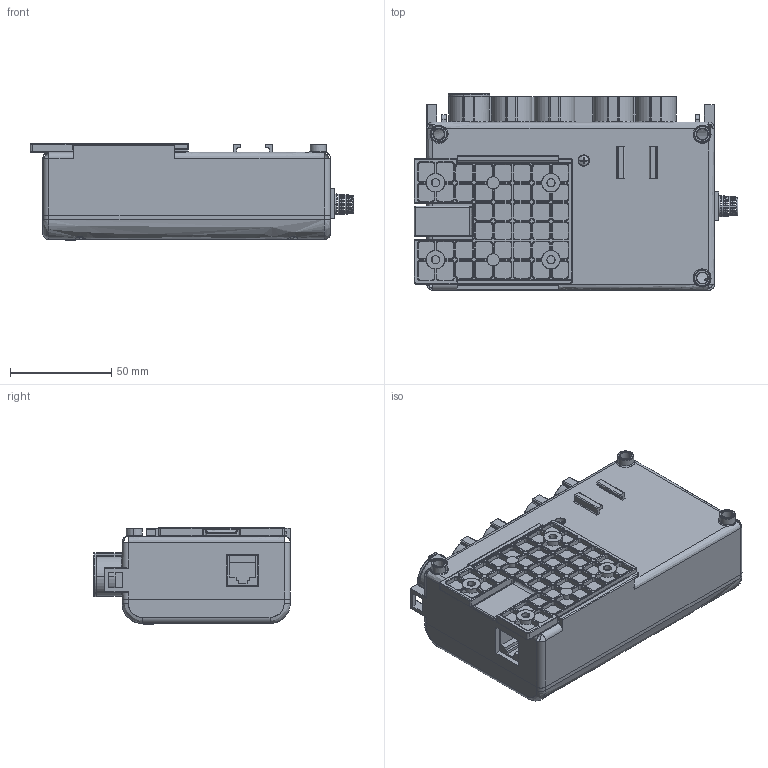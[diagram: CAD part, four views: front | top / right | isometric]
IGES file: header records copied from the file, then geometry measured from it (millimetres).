
Start section: SolidWorks IGES file using analytic representation for surfaces
Global section: file name: C:\Users\USER\Desktop\CS2-BT-WU.IGS; native system: SolidWorks 2020; preprocessor: SolidWorks 2020; author: USER; date: 220728.105646; units: millimetre
Bounding box: 159.7 x 97 x 47.8 mm (x, y, z)
Surface area: 67582.2 mm2 (no closed solid volume)
Topology: 0 solids, 0 shells, 1316 faces, 12737 edges, 12732 vertices
Faces by surface type: bspline 708, revolution 608
